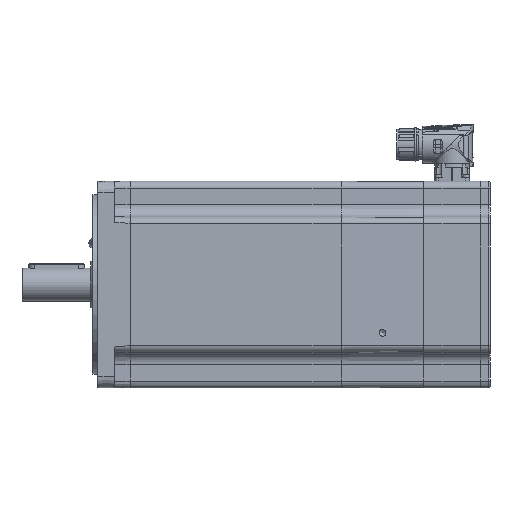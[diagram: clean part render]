
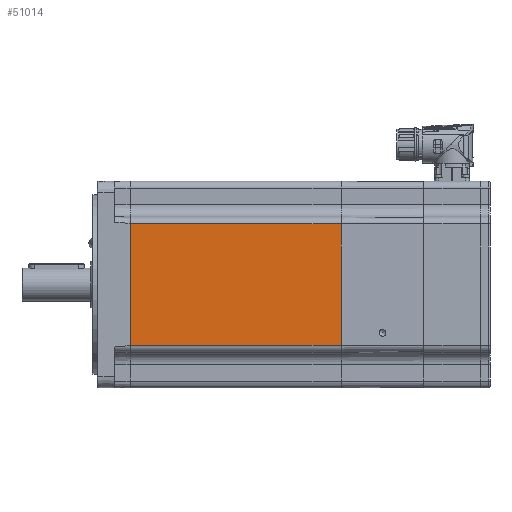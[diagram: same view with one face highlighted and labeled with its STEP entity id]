
A CAD part, left-side view. The second image highlights one B-rep face of the part: STEP entity #51014.
In plain terms, the highlighted planar face has unit normal (-1, 0, 0) as drawn and (0, -1, 0) by its records, which use the part's own axes.
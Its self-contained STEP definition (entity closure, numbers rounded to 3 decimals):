
#3141=LINE('',#89234,#5198);
#3162=LINE('',#89332,#5219);
#3165=LINE('',#89365,#5222);
#3166=LINE('',#89366,#5223);
#5198=VECTOR('',#63240,1000.);
#5219=VECTOR('',#63317,1000.);
#5222=VECTOR('',#63356,1000.);
#5223=VECTOR('',#63357,1000.);
#6108=PLANE('',#54506);
#17573=ORIENTED_EDGE('',*,*,#22744,.F.);
#17574=ORIENTED_EDGE('',*,*,#22805,.T.);
#17575=ORIENTED_EDGE('',*,*,#22792,.T.);
#17576=ORIENTED_EDGE('',*,*,#22806,.T.);
#22744=EDGE_CURVE('',#26222,#26223,#3141,.T.);
#22792=EDGE_CURVE('',#26271,#26270,#3162,.T.);
#22805=EDGE_CURVE('',#26222,#26271,#3165,.T.);
#22806=EDGE_CURVE('',#26270,#26223,#3166,.F.);
#26222=VERTEX_POINT('',#89235);
#26223=VERTEX_POINT('',#89236);
#26270=VERTEX_POINT('',#89331);
#26271=VERTEX_POINT('',#89333);
#30390=EDGE_LOOP('',(#17573,#17574,#17575,#17576));
#33293=FACE_BOUND('',#30390,.T.);
#51014=ADVANCED_FACE('',(#33293),#6108,.T.);
#54506=AXIS2_PLACEMENT_3D('',#89364,#63354,#63355);
#63240=DIRECTION('',(0.,0.,-1.));
#63317=DIRECTION('',(0.,0.,-1.));
#63354=DIRECTION('',(0.,-1.,0.));
#63355=DIRECTION('',(0.,0.,-1.));
#63356=DIRECTION('',(-1.,0.,0.));
#63357=DIRECTION('',(-1.,0.,0.));
#89234=CARTESIAN_POINT('',(-1.,-75.,75.));
#89235=CARTESIAN_POINT('',(-1.,-75.,44.));
#89236=CARTESIAN_POINT('',(-1.,-75.,-44.));
#89331=CARTESIAN_POINT('',(-154.,-75.,-44.));
#89332=CARTESIAN_POINT('',(-154.,-75.,75.));
#89333=CARTESIAN_POINT('',(-154.,-75.,44.));
#89364=CARTESIAN_POINT('',(-300.,-75.,75.));
#89365=CARTESIAN_POINT('',(-300.,-75.,44.));
#89366=CARTESIAN_POINT('',(0.,-75.,-44.));
